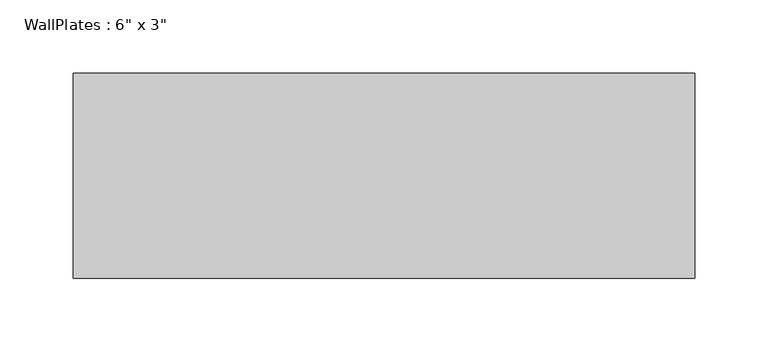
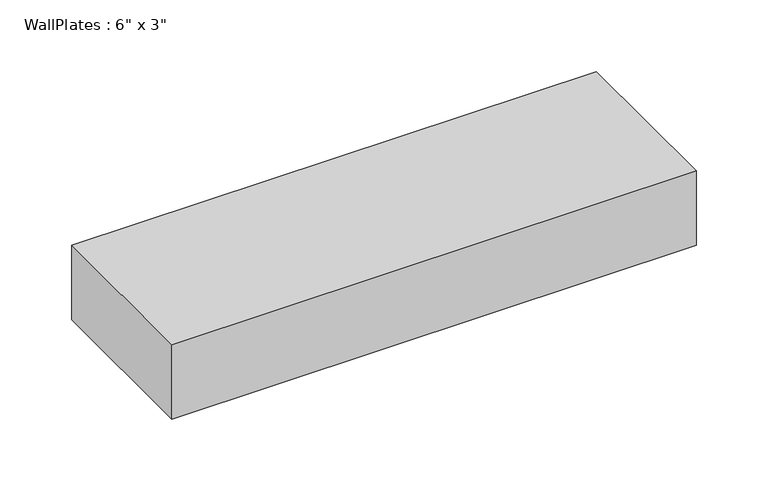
"""IFC4 building model written with IfcOpenShell, lengths in millimetres: beam geometry."""

from ifc_helpers import new_model, si_unit, frame, origin, place, context, project, spatial, polyline, outline, extrude, source, transform, mapped, element, save


def beam_f3d449ce(model_context):
    return source(origin(), model_context, "Body", "SweptSolid", [
        extrude(outline(polyline([(-211.6716667, -69.85), (-211.6716667, 69.85), (211.6716667, 69.85), (211.6716667, -69.85), (-211.6716667, -69.85)])), frame((0.0, 0.0, -31.75), z_axis=(0.0, 0.0, 1.0), x_axis=(1.0, 0.0, 0.0)), (0.0, 0.0, 1.0), 63.5),
    ])


if __name__ == "__main__":
    model = new_model("IFC4")
    model_context = context("Model", 3, world=origin())
    ifc_project = project(units=[si_unit("LENGTHUNIT", "METRE", prefix="MILLI")], contexts=[model_context])
    site = spatial("IfcSite", under=ifc_project)
    building = spatial("IfcBuilding", under=site)
    placement = place(None, origin())
    beam_shape = beam_f3d449ce(model_context)
    element("IfcBeam", 1, ObjectType="WallPlates : 6\" x 3\"", at=placement, inside=building, context=model_context, shape_type="MappedRepresentation", body=[
        mapped(beam_shape, transform((0.0, 0.0, 0.0), x_axis=(1.0, 0.0, 0.0), y_axis=(0.0, 1.0, 0.0), z_axis=(0.0, 0.0, 1.0))),
    ])
    save(model, "model.ifc")
